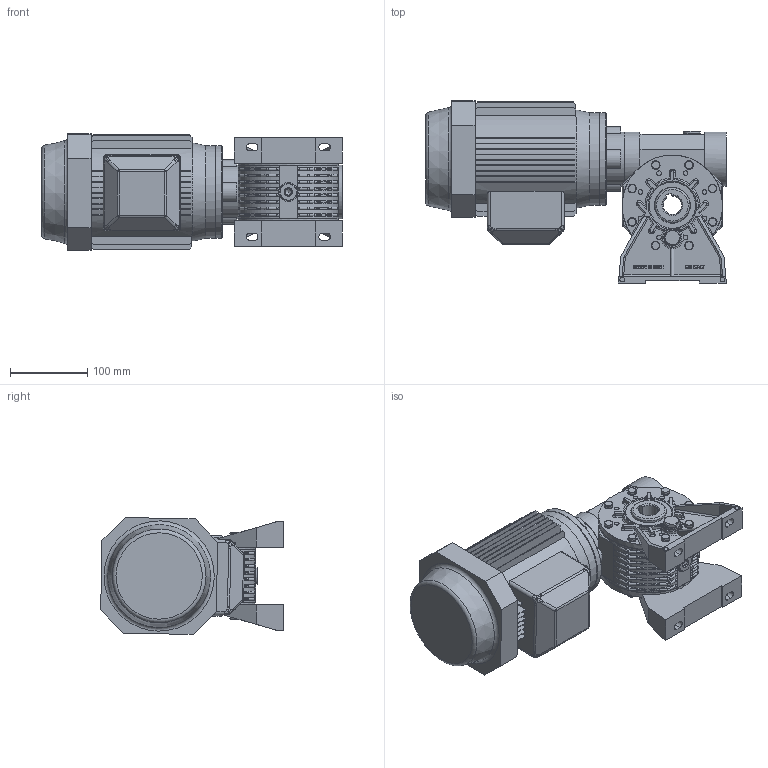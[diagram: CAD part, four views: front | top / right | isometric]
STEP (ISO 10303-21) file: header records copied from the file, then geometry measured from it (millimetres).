
FILE_DESCRIPTION((''),'2;1');
FILE_NAME('Y:\Archivi Inventor\Prog_01\GRAND_20\figuirini\mrv20_sito\80\MRV---20---P2-----80----B14-3D.stp','2013-02-08T16:32:35',('tech3'),(''),'Autodesk Inventor 2013','Autodesk Inventor 2013','');
FILE_SCHEMA(('AUTOMOTIVE_DESIGN { 1 0 10303 214 1 1 1 1 }'));
Length unit declared in the file: millimetre
Products named in the file (17): fig_mrv20_80_b14; mrv20; 0102001; 01020010; Coperchietto_47x7; Guarnizione 3_8 GAS; Tappo3_8 GAS; Tappo 3_8 GAS_esagn_incsst; mozzo_corona_fig; PARAOLIO 45x60x8; ISO 4017 M6 x 16; 0102029; DIN EN 24017 M6 x 12; 0102028; DIN EN ISO 4762 M6 x 20; 0102006; motori B14 80
Assembly tree (43 placements, depth 3):
  fig_mrv20_80_b14
    mrv20
      0102001
      01020010  x2
      Coperchietto_47x7
      Guarnizione 3_8 GAS  x4
      Tappo3_8 GAS  x2
      Tappo 3_8 GAS_esagn_incsst  x2
      mozzo_corona_fig
      PARAOLIO 45x60x8  x2
      ISO 4017 M6 x 16  x16
      0102029  x2
      DIN EN 24017 M6 x 12  x2
      0102028
      DIN EN ISO 4762 M6 x 20  x4
    0102006
    motori B14 80
Bounding box: 390 x 236.78 x 151.56 mm (x, y, z)
Volume: 4996389.8 mm3; surface area: 634884.8 mm2
Topology: 42 solids, 49 shells, 2565 faces, 6304 edges, 3902 vertices
Faces by surface type: plane 1306, cylinder 569, bspline 330, cone 186, torus 146, sphere 28
Full cylindrical faces by diameter (mm): 2 x2, 4.917 x24, 6 x38, 6.5 x36, 6.75 x4, 7 x4, 8 x2, 8.88 x18, 10 x4, 11 x16, 13.046 x2, 14.95 x4, 16.3 x4, 16.5 x2, 19 x1, 22 x8, 25 x2, 40 x1, 41.36 x1, 44.4 x2, 45 x4, 47 x4, 49.5 x1, 50.605 x2, 55.5 x2, 60 x4, 69.5 x1, 70 x2, 80 x2, 100 x6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
Entity records: 58627 total; most frequent: CARTESIAN_POINT 19480, ORIENTED_EDGE 7818, DIRECTION 7620, EDGE_CURVE 3909, AXIS2_PLACEMENT_3D 2806, VERTEX_POINT 2527, EDGE_LOOP 2012, VECTOR 2008
